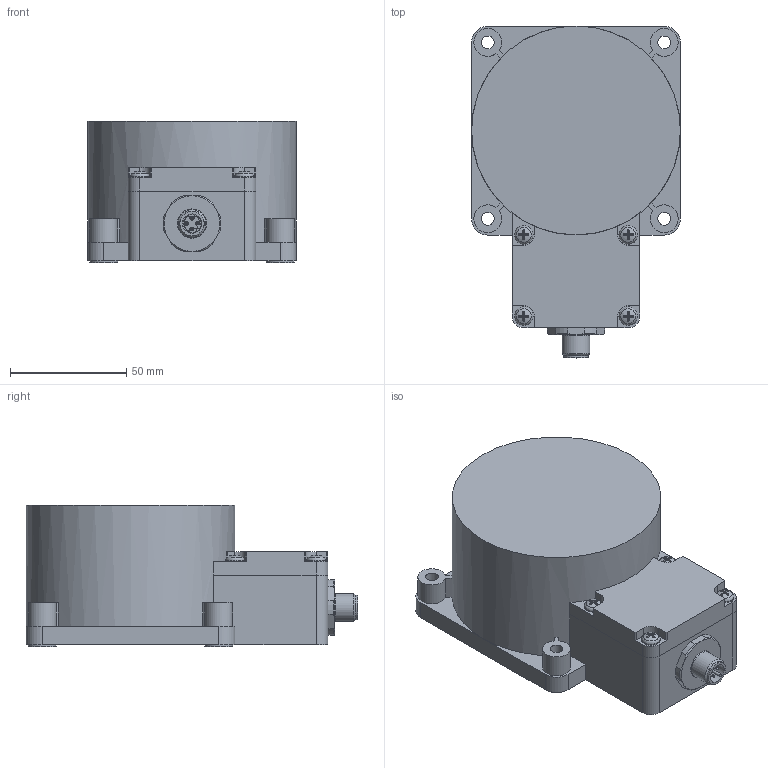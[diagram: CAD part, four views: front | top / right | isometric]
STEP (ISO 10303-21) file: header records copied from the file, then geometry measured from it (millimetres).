
FILE_DESCRIPTION((''),'2;1');
FILE_NAME('C:\TurckZip\K90SR-X2-H1.stp','2008-07-22T15:21:15',('IKOROL'),(''),'Autodesk Inventor 2008','Autodesk Inventor 2008','');
FILE_SCHEMA(('CONFIG_CONTROL_DESIGN'));
Length unit declared in the file: millimetre
Products named in the file (1): Part11
Bounding box: 90 x 143 x 60.8 mm (x, y, z)
Volume: 490459.6 mm3; surface area: 48114.8 mm2
Topology: 1 solids, 12 shells, 361 faces, 916 edges, 598 vertices
Faces by surface type: plane 145, cylinder 110, cone 73, torus 24, bspline 5, sphere 4
Full cylindrical faces by diameter (mm): 0.8 x4, 1 x8, 1.3 x4, 1.8 x4, 3.571 x4, 4 x12, 5.5 x4, 8 x1, 8.3 x1, 9 x1, 9.5 x1, 9.6 x1, 9.9 x1, 10 x1, 10.5 x1, 11.98 x1, 12 x4, 16.5 x1, 18.5 x1, 20 x1, 90 x1
Entity records: 11277 total; most frequent: CARTESIAN_POINT 2926, DIRECTION 1708, ORIENTED_EDGE 1546, EDGE_CURVE 773, AXIS2_PLACEMENT_3D 700, VERTEX_POINT 559, EDGE_LOOP 512, FACE_OUTER_BOUND 361
